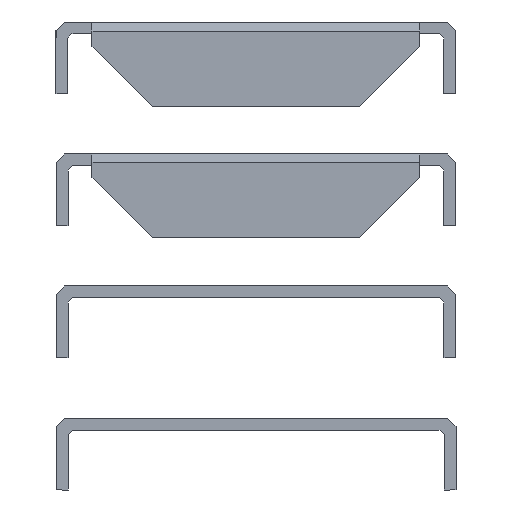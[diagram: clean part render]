
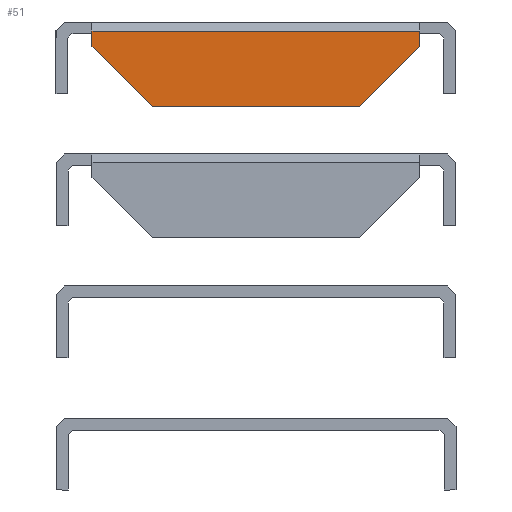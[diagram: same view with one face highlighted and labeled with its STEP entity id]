
A CAD part, front view. The second image highlights one B-rep face of the part: STEP entity #51.
In plain terms, the highlighted planar face has unit normal (0, -1, 0).
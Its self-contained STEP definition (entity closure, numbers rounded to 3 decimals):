
#51 = ADVANCED_FACE ( 'NONE', ( #2290 ), #1855, .F. ) ;
#54 = VERTEX_POINT ( 'NONE', #500 ) ;
#127 = VERTEX_POINT ( 'NONE', #527 ) ;
#158 = CARTESIAN_POINT ( 'NONE',  ( -25.9, -61., -21. ) ) ;
#162 = EDGE_CURVE ( 'NONE', #127, #1920, #1689, .T. ) ;
#255 = ORIENTED_EDGE ( 'NONE', *, *, #513, .F. ) ;
#256 = CARTESIAN_POINT ( 'NONE',  ( 41., -61., -3. ) ) ;
#262 = EDGE_CURVE ( 'NONE', #54, #2012, #912, .T. ) ;
#276 = CARTESIAN_POINT ( 'NONE',  ( -25.9, -61., -21. ) ) ;
#289 = DIRECTION ( 'NONE',  ( 0.707, 0., 0.707 ) ) ;
#386 = VECTOR ( 'NONE', #2155, 1000. ) ;
#441 = ORIENTED_EDGE ( 'NONE', *, *, #1653, .F. ) ;
#500 = CARTESIAN_POINT ( 'NONE',  ( -41., -61., -5.9 ) ) ;
#513 = EDGE_CURVE ( 'NONE', #2012, #1482, #2178, .T. ) ;
#516 = VECTOR ( 'NONE', #843, 1000. ) ;
#523 = CARTESIAN_POINT ( 'NONE',  ( 0., -61., 0. ) ) ;
#527 = CARTESIAN_POINT ( 'NONE',  ( 25.9, -61., -21. ) ) ;
#530 = ORIENTED_EDGE ( 'NONE', *, *, #262, .F. ) ;
#539 = CARTESIAN_POINT ( 'NONE',  ( 0., -61., -21. ) ) ;
#545 = VERTEX_POINT ( 'NONE', #1783 ) ;
#557 = ORIENTED_EDGE ( 'NONE', *, *, #1858, .F. ) ;
#801 = CARTESIAN_POINT ( 'NONE',  ( -46.657, -61., -2.121 ) ) ;
#830 = CARTESIAN_POINT ( 'NONE',  ( -41., -61., -3. ) ) ;
#843 = DIRECTION ( 'NONE',  ( -0.707, 0., 0.707 ) ) ;
#862 = DIRECTION ( 'NONE',  ( 0., 0., 1. ) ) ;
#912 = LINE ( 'NONE', #830, #386 ) ;
#1146 = CARTESIAN_POINT ( 'NONE',  ( 41., -61., -2.121 ) ) ;
#1198 = VECTOR ( 'NONE', #2501, 1000. ) ;
#1482 = VERTEX_POINT ( 'NONE', #1146 ) ;
#1517 = ORIENTED_EDGE ( 'NONE', *, *, #162, .F. ) ;
#1653 = EDGE_CURVE ( 'NONE', #1920, #54, #1857, .T. ) ;
#1655 = EDGE_CURVE ( 'NONE', #127, #545, #1661, .T. ) ;
#1658 = LINE ( 'NONE', #256, #2222 ) ;
#1661 = LINE ( 'NONE', #2253, #2305 ) ;
#1689 = LINE ( 'NONE', #539, #1198 ) ;
#1783 = CARTESIAN_POINT ( 'NONE',  ( 41., -61., -5.9 ) ) ;
#1818 = ORIENTED_EDGE ( 'NONE', *, *, #1655, .T. ) ;
#1855 = PLANE ( 'NONE',  #2303 ) ;
#1857 = LINE ( 'NONE', #276, #516 ) ;
#1858 = EDGE_CURVE ( 'NONE', #1482, #545, #1658, .T. ) ;
#1899 = DIRECTION ( 'NONE',  ( 0., 1., 0. ) ) ;
#1920 = VERTEX_POINT ( 'NONE', #158 ) ;
#1992 = DIRECTION ( 'NONE',  ( 0., 0., -1. ) ) ;
#2012 = VERTEX_POINT ( 'NONE', #2108 ) ;
#2067 = EDGE_LOOP ( 'NONE', ( #255, #530, #441, #1517, #1818, #557 ) ) ;
#2108 = CARTESIAN_POINT ( 'NONE',  ( -41., -61., -2.121 ) ) ;
#2155 = DIRECTION ( 'NONE',  ( 0., 0., 1. ) ) ;
#2178 = LINE ( 'NONE', #801, #2384 ) ;
#2222 = VECTOR ( 'NONE', #1992, 1000. ) ;
#2253 = CARTESIAN_POINT ( 'NONE',  ( 41., -61., -5.9 ) ) ;
#2290 = FACE_OUTER_BOUND ( 'NONE', #2067, .T. ) ;
#2303 = AXIS2_PLACEMENT_3D ( 'NONE', #523, #1899, #862 ) ;
#2305 = VECTOR ( 'NONE', #289, 1000. ) ;
#2373 = DIRECTION ( 'NONE',  ( 1., 0., 0. ) ) ;
#2384 = VECTOR ( 'NONE', #2373, 1000. ) ;
#2501 = DIRECTION ( 'NONE',  ( -1., 0., 0. ) ) ;
